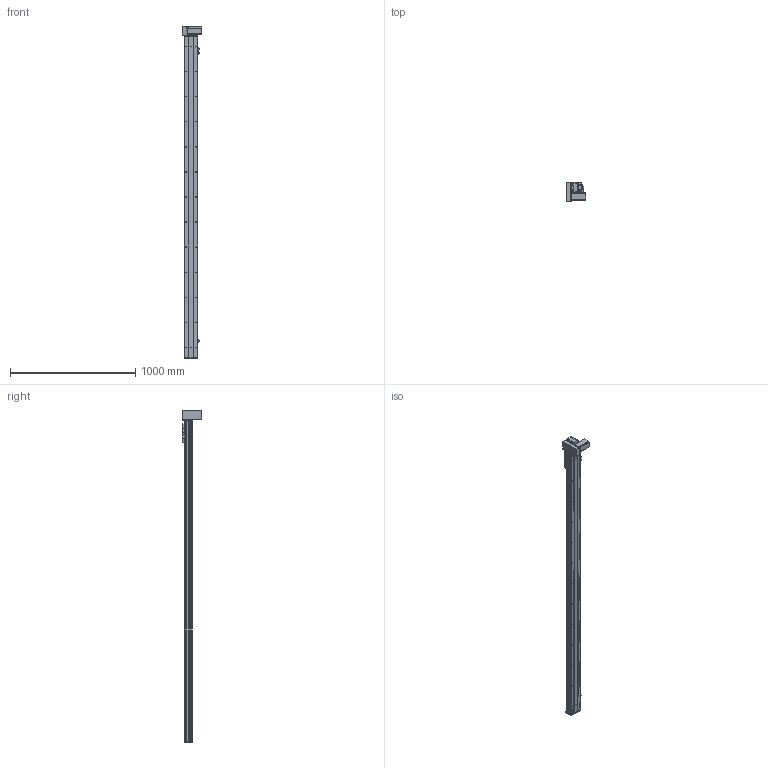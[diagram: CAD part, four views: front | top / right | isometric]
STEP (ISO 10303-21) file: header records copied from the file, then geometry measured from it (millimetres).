
FILE_DESCRIPTION (( 'STEP AP203' ), '1' );
FILE_NAME ('Y10CB-D90-S2300-BM-P400W.STEP', '2020-02-17T02:06:24', ( '微软用户' ), ( '微软中国' ), 'SwSTEP 2.0', 'SolidWorks 2017', '' );
FILE_SCHEMA (( 'CONFIG_CONTROL_DESIGN' ));
Length unit declared in the file: millimetre
Products named in the file (18): 10CB-耜裔; 0B-萇儂楊擘啣; Y135C-陔俋离換覜結え-; san松下电机400不带刹车----; Y100-135俋离換覜ん--; 0B-源倛裔啣; Y10B--々湍喘謫眊--666; 0B-埴倛裔啣; 00B-俋欶BM--; 10CB-詩湍-; Y10B-耜蚾蟀諉啣----; Y10CB- 掛极耜裔啣-毀---; 0CB-雄赽釱---; Y10CB-D90-S2300-BM-P400W; Y10C---詩湍揤啣; 0Cb-俋欶---; 10CB9-掛极; Y10B-々湍喘謫眊楊擘啣--
Assembly tree (21 placements, depth 2):
  Y10CB-D90-S2300-BM-P400W
    0CB-雄赽釱---
    0Cb-俋欶---
    Y10B-々湍喘謫眊楊擘啣--
    0B-萇儂楊擘啣
    san松下电机400不带刹车----
    0B-源倛裔啣
    0B-埴倛裔啣
    10CB-詩湍-
    Y10CB- 掛极耜裔啣-毀---  x2
    Y10C---詩湍揤啣  x2
    10CB9-掛极
    10CB-耜裔
    Y135C-陔俋离換覜結え-
    Y100-135俋离換覜ん--  x3
    Y10B--々湍喘謫眊--666
    00B-俋欶BM--
    Y10B-耜蚾蟀諉啣----
Bounding box: 157 x 156 x 2646 mm (x, y, z)
Volume: 5404535.7 mm3; surface area: 2555935.2 mm2
Topology: 21 solids, 21 shells, 1062 faces, 2883 edges, 1874 vertices
Faces by surface type: cylinder 549, plane 489, cone 24
Entity records: 33912 total; most frequent: CARTESIAN_POINT 6357, DIRECTION 5406, ORIENTED_EDGE 5236, EDGE_CURVE 2618, AXIS2_PLACEMENT_3D 1933, VERTEX_POINT 1700, LINE 1540, VECTOR 1540
